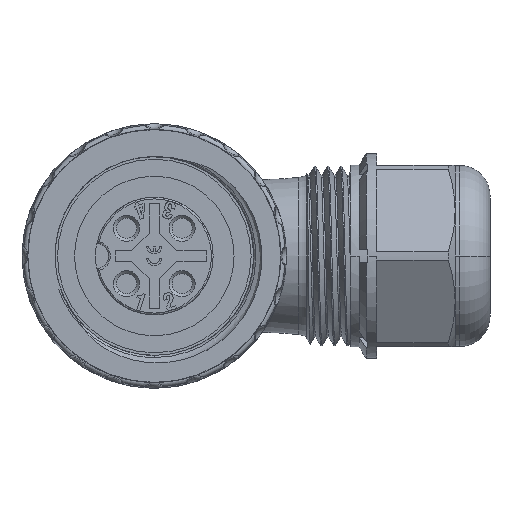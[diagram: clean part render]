
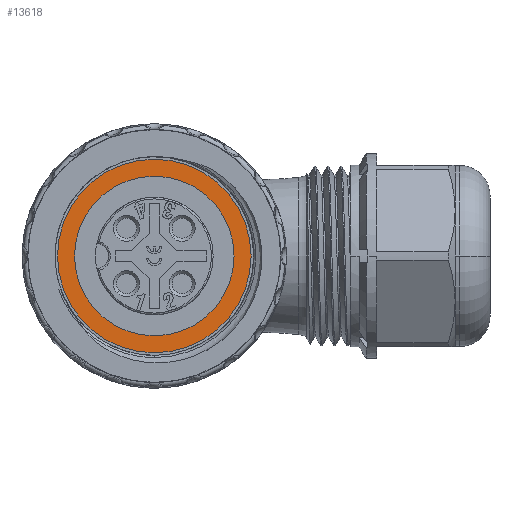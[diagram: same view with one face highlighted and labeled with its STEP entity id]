
A CAD part, left-side view. The second image highlights one B-rep face of the part: STEP entity #13618.
In plain terms, the highlighted planar face has unit normal (-1, 0, 0).
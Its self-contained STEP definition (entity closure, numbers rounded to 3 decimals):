
#1584=CARTESIAN_POINT('',(-1.,0.,0.));
#1585=DIRECTION('',(1.,0.,0.));
#1586=DIRECTION('',(0.,1.,0.));
#1587=AXIS2_PLACEMENT_3D('',#1584,#1585,#1586);
#1589=CARTESIAN_POINT('',(-1.,0.,0.));
#1590=DIRECTION('',(-1.,0.,0.));
#1591=DIRECTION('',(0.,1.,0.));
#1592=AXIS2_PLACEMENT_3D('',#1589,#1590,#1591);
#1603=CARTESIAN_POINT('',(-1.,0.,0.));
#1604=DIRECTION('',(-1.,0.,0.));
#1605=DIRECTION('',(0.,1.,0.));
#1606=AXIS2_PLACEMENT_3D('',#1603,#1604,#1605);
#9986=CARTESIAN_POINT('',(-1.,0.,0.));
#9987=DIRECTION('',(1.,0.,0.));
#9988=DIRECTION('',(0.,1.,0.));
#9989=AXIS2_PLACEMENT_3D('',#9986,#9987,#9988);
#10476=CARTESIAN_POINT('',(-1.,9.15,0.));
#10478=VERTEX_POINT('',#10476);
#10480=CARTESIAN_POINT('',(-1.,-9.15,0.));
#10482=VERTEX_POINT('',#10480);
#10483=CARTESIAN_POINT('',(-1.,11.1,0.));
#10484=CARTESIAN_POINT('',(-1.,-11.1,0.));
#10485=VERTEX_POINT('',#10483);
#10486=VERTEX_POINT('',#10484);
#13603=CARTESIAN_POINT('',(-1.,0.,0.));
#13604=DIRECTION('',(1.,0.,0.));
#13605=DIRECTION('',(0.,1.,0.));
#13606=AXIS2_PLACEMENT_3D('',#13603,#13604,#13605);
#13607=PLANE('',#13606);
#13609=ORIENTED_EDGE('',*,*,#13608,.F.);
#13611=ORIENTED_EDGE('',*,*,#13610,.T.);
#13612=EDGE_LOOP('',(#13609,#13611));
#13613=FACE_OUTER_BOUND('',#13612,.F.);
#13614=ORIENTED_EDGE('',*,*,#13596,.F.);
#13615=ORIENTED_EDGE('',*,*,#13585,.T.);
#13616=EDGE_LOOP('',(#13614,#13615));
#13617=FACE_BOUND('',#13616,.F.);
#13618=ADVANCED_FACE('',(#13613,#13617),#13607,.F.);
#1588=CIRCLE('',#1587,9.15);
#1593=CIRCLE('',#1592,9.15);
#1607=CIRCLE('',#1606,11.1);
#9990=CIRCLE('',#9989,11.1);
#13585=EDGE_CURVE('',#10478,#10482,#1593,.T.);
#13596=EDGE_CURVE('',#10478,#10482,#1588,.T.);
#13608=EDGE_CURVE('',#10485,#10486,#1607,.T.);
#13610=EDGE_CURVE('',#10485,#10486,#9990,.T.);
